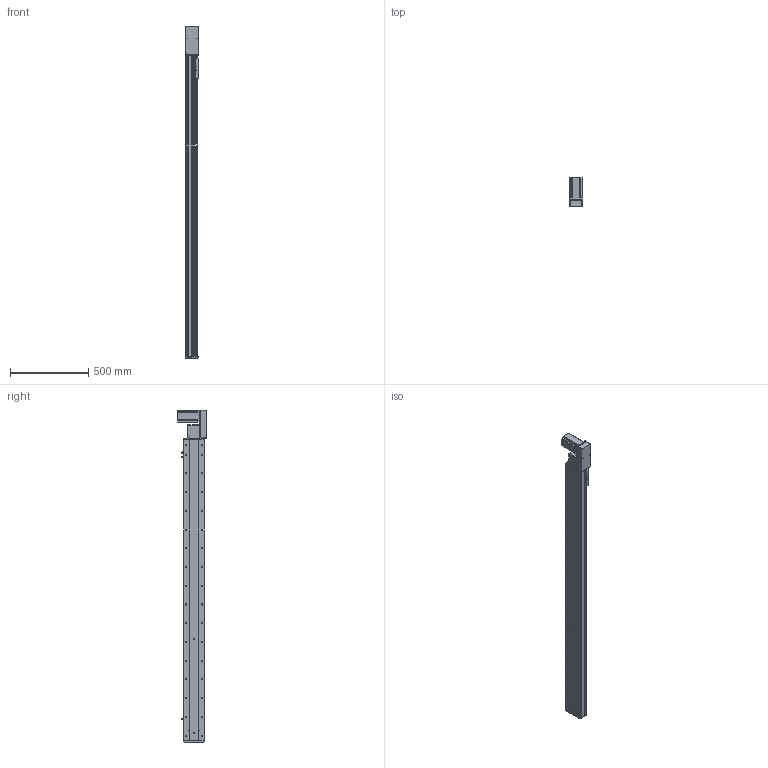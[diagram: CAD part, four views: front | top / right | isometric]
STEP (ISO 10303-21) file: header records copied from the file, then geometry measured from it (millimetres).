
FILE_DESCRIPTION (( 'STEP AP214' ), '1' );
FILE_NAME ('KSD130B-S1700-MLB-CM.STEP', '2019-09-19T08:47:15', ( '微软用户' ), ( '微软中国' ), 'SwSTEP 2.0', 'SolidWorks 2014', '' );
FILE_SCHEMA (( 'AUTOMOTIVE_DESIGN' ));
Length unit declared in the file: millimetre
Products named in the file (12): 台达ECMA－C20807AS伺服电机; 130宽模组保护罩上下左右折-同步带; 130宽模组马达安装板连板左右折同步带; 覜茼え100遵圉猾敕; U倰嫖萇EEㄜSX672; 130宽盖板半封闭同步带-1700行程; 130宽马达安装板同步带左-改; 130宽马达安装板同步带半封闭; 130宽同步带安装座半封闭; 130宽端盖同步带半封闭; 130宽底板半封闭同步带-1700行程; KSD130B-S1700-MLB-CM
Assembly tree (13 placements, depth 2):
  KSD130B-S1700-MLB-CM
    130宽底板半封闭同步带-1700行程
    130宽端盖同步带半封闭
    130宽同步带安装座半封闭
    130宽马达安装板同步带半封闭
    130宽马达安装板同步带左-改
    130宽盖板半封闭同步带-1700行程
    U倰嫖萇EEㄜSX672  x3
    覜茼え100遵圉猾敕
    130宽模组马达安装板连板左右折同步带
    130宽模组保护罩上下左右折-同步带
    台达ECMA－C20807AS伺服电机
Bounding box: 82.5 x 184.8 x 2127 mm (x, y, z)
Volume: 6875871 mm3; surface area: 1941479 mm2
Topology: 14 solids, 14 shells, 1719 faces, 5001 edges, 3171 vertices
Faces by surface type: cylinder 846, plane 650, cone 223
Entity records: 58547 total; most frequent: CARTESIAN_POINT 11324, DIRECTION 8819, ORIENTED_EDGE 8542, EDGE_CURVE 4271, AXIS2_PLACEMENT_3D 3246, VERTEX_POINT 2795, VECTOR 2327, LINE 2327
